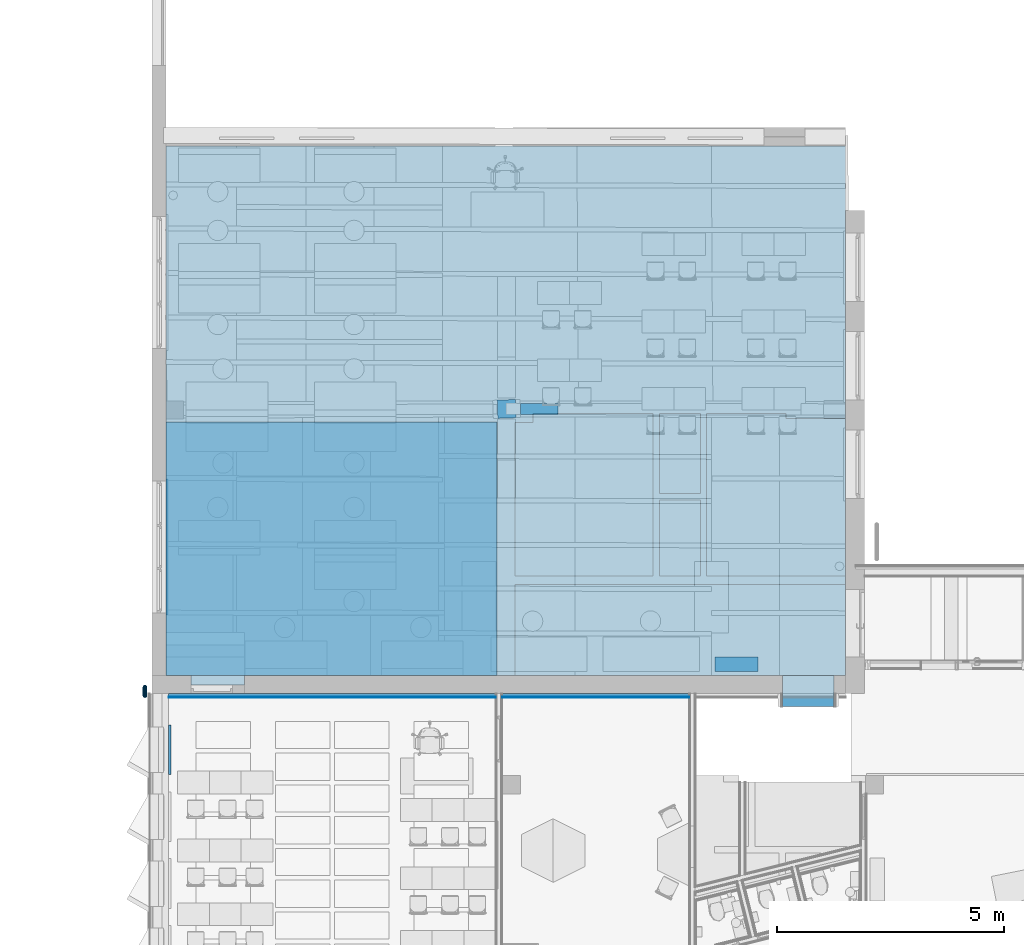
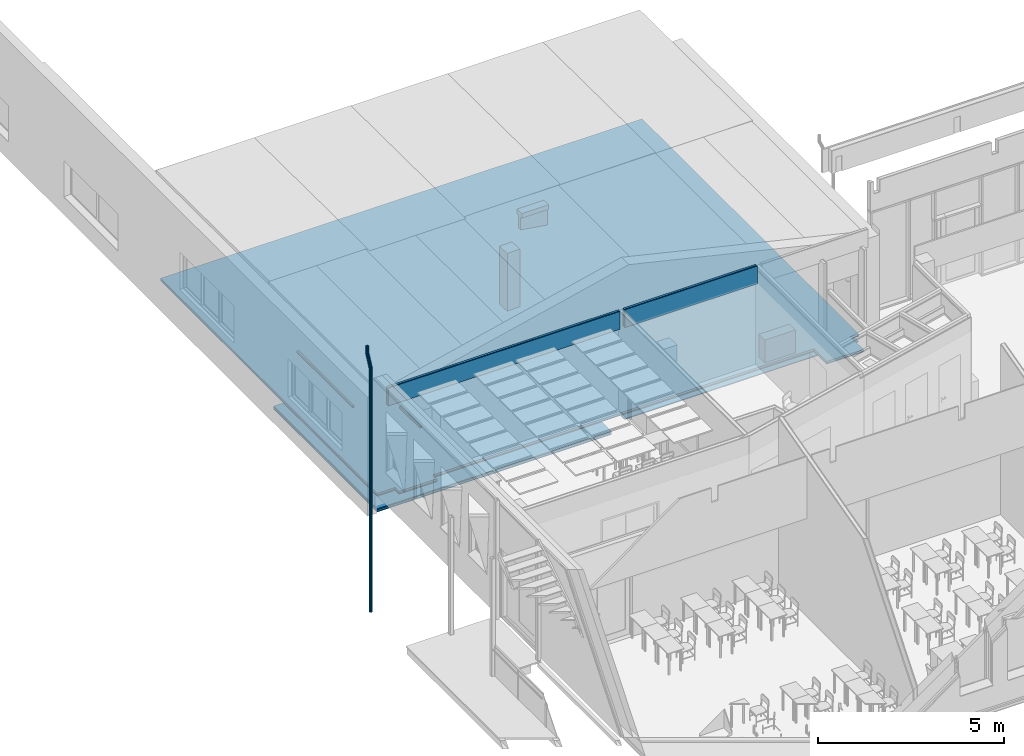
# One storey, part 60 of 153: 15 building element parts, 4 discrete accessories, 7 elements without a shape of their own.
"""IFC2X3 building model written with IfcOpenShell, lengths in millimetres."""

from ifc_helpers import new_model, entity, si_unit, converted_unit, derived_unit, money_unit, direction, frame, origin_with_axes, place, context, subcontext, project, spatial, open_shell, faceted_brep, surface_model, material, type_object, element, aggregate, save


model = new_model("IFC2X3")

# Units and contexts
model_context = context("Model", 3, precision=0.01, world=origin_with_axes(), true_north=direction((0.0, 1.0)))
body_context = subcontext(model_context, "Body", "Model", "MODEL_VIEW")
ifc_project = project(units=[si_unit("LENGTHUNIT", "METRE", prefix="MILLI"), si_unit("AREAUNIT", "SQUARE_METRE"), si_unit("VOLUMEUNIT", "CUBIC_METRE"), converted_unit("PLANEANGLEUNIT", "DEGREE", entity("IfcPlaneAngleMeasure", 0.0174532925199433), si_unit("PLANEANGLEUNIT", "RADIAN"), dimensions=[0, 0, 0, 0, 0, 0, 0]), money_unit("EUR"), converted_unit("TIMEUNIT", "Year", entity("IfcTimeMeasure", 31557600.0), si_unit("TIMEUNIT", "SECOND"), dimensions=[0, 0, 1, 0, 0, 0, 0]), si_unit("MASSUNIT", "GRAM", prefix="KILO"), si_unit("THERMODYNAMICTEMPERATUREUNIT", "DEGREE_CELSIUS"), si_unit("LUMINOUSINTENSITYUNIT", "LUMEN"), si_unit("ENERGYUNIT", "JOULE", prefix="MEGA"), derived_unit("THERMALCONDUCTANCEUNIT", [(si_unit("POWERUNIT", "WATT"), 1), (si_unit("LENGTHUNIT", "METRE"), -1), (si_unit("THERMODYNAMICTEMPERATUREUNIT", "KELVIN"), -1)]), derived_unit("SPECIFICHEATCAPACITYUNIT", [(si_unit("ENERGYUNIT", "JOULE"), 1), (si_unit("MASSUNIT", "GRAM", prefix="KILO"), -1), (si_unit("THERMODYNAMICTEMPERATUREUNIT", "KELVIN"), -1)]), derived_unit("MASSDENSITYUNIT", [(si_unit("MASSUNIT", "GRAM", prefix="KILO"), 1), (si_unit("VOLUMEUNIT", "CUBIC_METRE"), -1)])], contexts=[model_context])

# Site, building, storey
site_placement = place(None, frame((0.0, 0.0, 8650.0), z_axis=(0.0, 0.0, 1.0), x_axis=(1.0, 0.0, 0.0)))
site = spatial("IfcSite", under=ifc_project, at=site_placement, Name="43301:001:0844", CompositionType="ELEMENT")
building_placement = place(site_placement, origin_with_axes())
building = spatial("IfcBuilding", under=site, at=building_placement, Name="Kuressaare Ametikooli tuulikute mehaanikute õppekorpus", CompositionType="ELEMENT")
storey_placement = place(building_placement, frame((0.0, 0.0, 4100.0), z_axis=(0.0, 0.0, 1.0), x_axis=(1.0, 0.0, 0.0)))
storey = spatial("IfcBuildingStorey", under=building, at=storey_placement, Name="2.korrus", CompositionType="ELEMENT", Elevation=4100.0)

# Discrete accessories
ifc_material_1 = material(Name="GENEERILINE - KONSTRUKTRIOON")
discrete_accessory_type_1 = type_object("IfcDiscreteAccessoryType", Name="GENEERILINE - KONSTRUKTRIOON 50")
discrete_accessory_1_placement = place(storey_placement, frame((88318.22664518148, 25094.0689239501, 3000.0), z_axis=(0.0, 0.0, 1.0), x_axis=(1.0, 0.0, 0.0)))
element("IfcDiscreteAccessory", 1, at=discrete_accessory_1_placement, inside=storey, type_object=discrete_accessory_type_1, material=ifc_material_1, Name="RK", context=body_context, shape_type="Brep", body=[
    faceted_brep([(0.0, 0.0, 49.99999999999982), (0.0, 0.0, 0.0), (0.0, -1099.999999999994, 0.0), (0.0, -1099.999999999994, 49.99999999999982), (49.99999999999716, 0.0, 49.99999999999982), (49.99999999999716, 0.0, 0.0), (49.99999999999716, -1099.999999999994, 0.0), (49.99999999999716, -1099.999999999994, 49.99999999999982)], [[[0, 1, 2, 3]], [[4, 5, 1, 0]], [[2, 1, 5, 6]], [[3, 2, 6, 7]], [[4, 0, 3, 7]], [[7, 6, 5, 4]]]),
])
discrete_accessory_2_placement = place(storey_placement, frame((88258.75644683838, 30509.61136402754, 1560.0), z_axis=(0.0, 0.0, 1.0), x_axis=(1.0, 0.0, 0.0)))
element("IfcDiscreteAccessory", 2, at=discrete_accessory_2_placement, inside=storey, type_object=discrete_accessory_type_1, material=ifc_material_1, Name="RK1", context=body_context, shape_type="Brep", body=[
    faceted_brep([(0.0, 0.0, 49.99999999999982), (0.0, 0.0, 0.0), (0.0, -3000.0, 0.0), (0.0, -3000.0, 49.99999999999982), (49.99999999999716, 0.0, 49.99999999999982), (49.99999999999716, 0.0, 0.0), (49.99999999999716, -3000.0, 0.0), (49.99999999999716, -3000.0, 49.99999999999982)], [[[0, 1, 2, 3]], [[4, 5, 1, 0]], [[2, 1, 5, 6]], [[3, 2, 6, 7]], [[4, 0, 3, 7]], [[7, 6, 5, 4]]]),
])
discrete_accessory_type_2 = type_object("IfcDiscreteAccessoryType", Name="GENEERILINE - KONSTRUKTRIOON 750")
discrete_accessory_3_placement = place(storey_placement, frame((100354.1740527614, 26588.921238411, -450.0000000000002), z_axis=(0.0, 0.0, 1.0), x_axis=(1.0, 0.0, 0.0)))
element("IfcDiscreteAccessory", 3, at=discrete_accessory_3_placement, inside=storey, type_object=discrete_accessory_type_2, material=ifc_material_1, Name="PR2", context=body_context, shape_type="Brep", body=[
    faceted_brep([(0.0, 0.0, 750.0), (0.0, 0.0, 0.0), (0.0, -319.9999999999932, 0.0), (0.0, -319.9999999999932, 750.0), (949.9999999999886, 0.0, 750.0), (949.9999999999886, 0.0, 0.0), (949.9999999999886, -319.9999999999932, 0.0), (949.9999999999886, -319.9999999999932, 750.0)], [[[0, 1, 2, 3]], [[4, 5, 1, 0]], [[2, 1, 5, 6]], [[3, 2, 6, 7]], [[4, 0, 3, 7]], [[7, 6, 5, 4]]]),
])
discrete_accessory_type_3 = type_object("IfcDiscreteAccessoryType", Name="Downspout Complex 27")
discrete_accessory_4_placement = place(storey_placement, frame((87798.2557944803, 25737.58545284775, -3897.119848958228), z_axis=(0.0, 0.0, 1.0), x_axis=(-1.0, 0.0, 0.0)))
element("IfcDiscreteAccessory", 4, at=discrete_accessory_4_placement, inside=storey, type_object=discrete_accessory_type_3, Name="SV püstik", context=body_context, shape_type="SurfaceModel", body=[
    surface_model("IfcShellBasedSurfaceModel", [(-50.0, 0.0, 7805.454105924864), (-50.0, 0.0, 0.0), (-46.19397662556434, -19.13417161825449, 0.0), (-46.19397662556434, -19.13417161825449, 7805.454105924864), (-46.19397662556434, 19.13417161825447, 7805.454105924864), (-46.19397662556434, 19.13417161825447, 0.0), (-35.35533905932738, -35.35533905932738, 0.0), (-35.35533905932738, -35.35533905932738, 7805.454105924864), (-35.35533905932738, 35.35533905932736, 7805.454105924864), (-35.35533905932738, 35.35533905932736, 0.0), (-19.13417161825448, -46.19397662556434, 0.0), (-19.13417161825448, -46.19397662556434, 7805.454105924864), (-19.13417161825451, 46.19397662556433, 7805.454105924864), (-19.13417161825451, 46.19397662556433, 0.0), (0.0, -50.0, 0.0), (0.0, -50.0, 7805.454105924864), (0.0, 50.0, 7805.454105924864), (0.0, 50.0, 0.0), (19.13417161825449, -46.19397662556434, 0.0), (19.13417161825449, -46.19397662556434, 7805.454105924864), (19.13417161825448, 46.19397662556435, 7805.454105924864), (19.13417161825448, 46.19397662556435, 0.0), (35.35533905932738, -35.35533905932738, 0.0), (35.35533905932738, -35.35533905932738, 7805.454105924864), (35.35533905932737, 35.35533905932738, 7805.454105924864), (35.35533905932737, 35.35533905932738, 0.0), (46.19397662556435, -19.13417161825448, 0.0), (46.19397662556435, -19.13417161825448, 7805.454105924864), (46.19397662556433, 19.1341716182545, 7805.454105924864), (46.19397662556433, 19.1341716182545, 0.0), (50.0, 0.0, 0.0), (50.0, 0.0, 7805.454105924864)], [open_shell([[[0, 1, 2, 3]], [[4, 5, 1, 0]], [[3, 2, 6, 7]], [[8, 9, 5, 4]], [[7, 6, 10, 11]], [[12, 13, 9, 8]], [[11, 10, 14, 15]], [[16, 17, 13, 12]], [[15, 14, 18, 19]], [[20, 21, 17, 16]], [[19, 18, 22, 23]], [[24, 25, 21, 20]], [[23, 22, 26, 27]], [[28, 29, 25, 24]], [[27, 26, 30, 31]], [[31, 30, 29, 28]]])]),
    surface_model("IfcShellBasedSurfaceModel", [(50.0, -184.5902788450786, 8605.454105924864), (50.0, -184.5902788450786, 8386.306594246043), (46.19397662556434, -165.4561072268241, 8390.699165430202), (46.19397662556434, -165.4561072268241, 8605.454105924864), (46.19397662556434, -203.7244504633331, 8605.454105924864), (46.19397662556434, -203.7244504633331, 8381.914023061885), (49.99999999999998, 0.0, 8005.454105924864), (46.19397662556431, 19.13417161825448, 8009.846677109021), (35.35533905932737, -149.2349397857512, 8394.42300747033), (35.35533905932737, -149.2349397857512, 8605.454105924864), (35.35533905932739, -219.945617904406, 8605.454105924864), (35.35533905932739, -219.945617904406, 8378.190181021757), (46.19397662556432, -19.13417161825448, 8001.061534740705), (49.99999999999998, 0.0, 7805.454105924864), (46.19397662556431, 19.13417161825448, 7805.454105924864), (35.35533905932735, 35.35533905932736, 8013.570519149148), (19.13417161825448, -138.3963022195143, 8396.911199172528), (19.13417161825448, -138.3963022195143, 8605.454105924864), (19.13417161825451, -230.784255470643, 8605.454105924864), (19.13417161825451, -230.784255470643, 8375.70198931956), (35.35533905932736, -35.35533905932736, 7997.337692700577), (46.19397662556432, -19.13417161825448, 7805.454105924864), (35.35533905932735, 35.35533905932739, 7805.454105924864), (19.13417161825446, 46.19397662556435, 8016.058710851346), (0.0, -134.5902788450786, 8397.784935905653), (0.0, -134.5902788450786, 8605.454105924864), (0.0, -234.5902788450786, 8605.454105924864), (0.0, -234.5902788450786, 8374.828252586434), (19.13417161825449, -46.19397662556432, 7994.849500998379), (35.35533905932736, -35.35533905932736, 7805.454105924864), (19.13417161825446, 46.19397662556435, 7805.454105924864), (0.0, 49.99999999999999, 8016.932447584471), (-19.1341716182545, -138.3963022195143, 8396.911199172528), (-19.1341716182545, -138.3963022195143, 8605.454105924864), (-19.13417161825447, -230.784255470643, 8605.454105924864), (-19.13417161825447, -230.784255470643, 8375.70198931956), (0.0, -49.99999999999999, 7993.975764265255), (19.13417161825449, -46.19397662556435, 7805.454105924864), (0.0, 49.99999999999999, 7805.454105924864), (-19.13417161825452, 46.19397662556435, 8016.058710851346), (-35.35533905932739, -149.2349397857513, 8394.42300747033), (-35.35533905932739, -149.2349397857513, 8605.454105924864), (-35.35533905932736, -219.945617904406, 8605.454105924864), (-35.35533905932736, -219.945617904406, 8378.190181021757), (-19.13417161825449, -46.19397662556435, 7994.849500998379), (0.0, -49.99999999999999, 7805.454105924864), (-19.13417161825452, 46.19397662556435, 7805.454105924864), (-35.35533905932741, 35.35533905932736, 8013.570519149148), (-46.19397662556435, -165.4561072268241, 8390.699165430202), (-46.19397662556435, -165.4561072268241, 8605.454105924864), (-46.19397662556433, -203.7244504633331, 8605.454105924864), (-46.19397662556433, -203.7244504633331, 8381.914023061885), (-35.35533905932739, -35.35533905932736, 7997.337692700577), (-19.13417161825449, -46.19397662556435, 7805.454105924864), (-35.35533905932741, 35.35533905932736, 7805.454105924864), (-46.19397662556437, 19.13417161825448, 8009.846677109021), (-50.0, -184.5902788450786, 8386.306594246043), (-50.0, -184.5902788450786, 8605.454105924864), (-46.19397662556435, -19.13417161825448, 8001.061534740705), (-35.35533905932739, -35.35533905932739, 7805.454105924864), (-46.19397662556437, 19.13417161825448, 7805.454105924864), (-50.00000000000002, 0.0, 8005.454105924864), (-46.19397662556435, -19.13417161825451, 7805.454105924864), (-50.00000000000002, 0.0, 7805.454105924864)], [open_shell([[[0, 1, 2, 3]], [[4, 5, 1, 0]], [[1, 6, 7, 2]], [[3, 2, 8, 9]], [[10, 11, 5, 4]], [[5, 12, 6, 1]], [[6, 13, 14, 7]], [[2, 7, 15, 8]], [[9, 8, 16, 17]], [[18, 19, 11, 10]], [[11, 20, 12, 5]], [[12, 21, 13, 6]], [[7, 14, 22, 15]], [[8, 15, 23, 16]], [[17, 16, 24, 25]], [[26, 27, 19, 18]], [[19, 28, 20, 11]], [[20, 29, 21, 12]], [[15, 22, 30, 23]], [[16, 23, 31, 24]], [[25, 24, 32, 33]], [[34, 35, 27, 26]], [[27, 36, 28, 19]], [[28, 37, 29, 20]], [[23, 30, 38, 31]], [[24, 31, 39, 32]], [[33, 32, 40, 41]], [[42, 43, 35, 34]], [[35, 44, 36, 27]], [[36, 45, 37, 28]], [[31, 38, 46, 39]], [[32, 39, 47, 40]], [[41, 40, 48, 49]], [[50, 51, 43, 42]], [[43, 52, 44, 35]], [[44, 53, 45, 36]], [[39, 46, 54, 47]], [[40, 47, 55, 48]], [[49, 48, 56, 57]], [[57, 56, 51, 50]], [[51, 58, 52, 43]], [[52, 59, 53, 44]], [[47, 54, 60, 55]], [[48, 55, 61, 56]], [[56, 61, 58, 51]], [[58, 62, 59, 52]], [[55, 60, 63, 61]], [[61, 63, 62, 58]]])]),
])

# Slab, building element parts
slab_type_1 = type_object("IfcSlabType", Name="VL3.1 109", PredefinedType="NOTDEFINED")
slab_1_placement = place(storey_placement, frame((88258.75644683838, 26183.06892395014, -1065.947478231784), z_axis=(0.0, 0.0, 1.0), x_axis=(1.0, 0.0, 0.0)))
slab_1 = element("IfcSlab", 5, at=slab_1_placement, inside=storey, type_object=slab_type_1, PredefinedType="NOTDEFINED")
ifc_material_2 = material(Name="Soojustus - Mineraalvill jäik")
building_element_part_1_placement = place(slab_1_placement, origin_with_axes())
building_element_part_1 = element("IfcBuildingElementPart", 6, at=building_element_part_1_placement, material=ifc_material_2, Name="Soojustus - Mineraalvill jäik", context=body_context, shape_type="Brep", body=[
    faceted_brep([(7289.144669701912, 0.0, 79.00000000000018), (7289.144669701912, 0.0, 109.0), (0.0, 0.0, 109.0), (0.0, 0.0, 79.00000000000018), (7289.144669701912, 5583.127995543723, 79.00000000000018), (7289.144669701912, 5583.127995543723, 109.0), (0.0, 5575.675713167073, 109.0), (0.0, 5575.675713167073, 79.00000000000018)], [[[0, 1, 2, 3]], [[4, 5, 1, 0]], [[2, 1, 5, 6]], [[3, 2, 6, 7]], [[3, 7, 4, 0]], [[7, 6, 5, 4]]]),
])
ifc_material_3 = material(Name="Kipsplaat")
building_element_part_2_placement = place(slab_1_placement, origin_with_axes())
building_element_part_2 = element("IfcBuildingElementPart", 7, at=building_element_part_2_placement, material=ifc_material_3, Name="Kipsplaat", context=body_context, shape_type="Brep", body=[
    faceted_brep([(7289.144669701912, 0.0, 12.49999999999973), (7289.144669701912, 0.0, 24.99999999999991), (0.0, 0.0, 24.99999999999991), (0.0, 0.0, 12.49999999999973), (7289.144669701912, 5583.127995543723, 12.49999999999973), (7289.144669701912, 5583.127995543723, 24.99999999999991), (0.0, 5575.675713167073, 24.99999999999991), (0.0, 5575.675713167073, 12.49999999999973)], [[[0, 1, 2, 3]], [[4, 5, 1, 0]], [[2, 1, 5, 6]], [[3, 2, 6, 7]], [[3, 7, 4, 0]], [[7, 6, 5, 4]]]),
])
ifc_material_4 = material(Name="Õhkvahe - Raam")
building_element_part_3_placement = place(slab_1_placement, origin_with_axes())
building_element_part_3 = element("IfcBuildingElementPart", 8, at=building_element_part_3_placement, material=ifc_material_4, Name="Õhkvahe - Raam", context=body_context, shape_type="Brep", body=[
    faceted_brep([(7289.144669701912, 0.0, 25.00000000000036), (7289.144669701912, 0.0, 79.00000000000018), (0.0, 0.0, 79.00000000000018), (0.0, 0.0, 25.00000000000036), (7289.144669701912, 5583.127995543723, 25.00000000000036), (7289.144669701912, 5583.127995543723, 79.00000000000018), (0.0, 5575.675713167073, 79.00000000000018), (0.0, 5575.675713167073, 25.00000000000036)], [[[0, 1, 2, 3]], [[4, 5, 1, 0]], [[2, 1, 5, 6]], [[3, 2, 6, 7]], [[3, 7, 4, 0]], [[7, 6, 5, 4]]]),
])
building_element_part_4_placement = place(slab_1_placement, origin_with_axes())
building_element_part_4 = element("IfcBuildingElementPart", 9, at=building_element_part_4_placement, material=ifc_material_3, Name="Kipsplaat", context=body_context, shape_type="Brep", body=[
    faceted_brep([(0.0, 0.0, 0.0), (7289.144669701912, 0.0, 0.0), (7289.144669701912, 0.0, 12.50000000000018), (0.0, 0.0, 12.50000000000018), (0.0, 5575.675713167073, 0.0), (7289.144669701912, 5583.127995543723, 0.0), (7289.144669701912, 5583.127995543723, 12.50000000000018), (0.0, 5575.675713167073, 12.50000000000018)], [[[0, 1, 2, 3]], [[0, 4, 5, 1]], [[1, 5, 6, 2]], [[3, 2, 6, 7]], [[4, 0, 3, 7]], [[5, 4, 7, 6]]]),
])
aggregate(slab_1, [building_element_part_1, building_element_part_2, building_element_part_3, building_element_part_4])

# Wall, building element parts
wall_type = type_object("IfcWallType", Name="SS-2.5* 96", PredefinedType="NOTDEFINED")
wall_1_placement = place(storey_placement, frame((88318.22664518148, 25783.06892395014, 2703.186184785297), z_axis=(0.0, 0.0, 1.0), x_axis=(1.0, 0.0, 0.0)))
wall_1 = element("IfcWall", 10, at=wall_1_placement, inside=storey, type_object=wall_type, Name="Sisesein")
building_element_part_5_placement = place(wall_1_placement, origin_with_axes())
building_element_part_5 = element("IfcBuildingElementPart", 11, at=building_element_part_5_placement, material=ifc_material_3, Name="Kipsplaat", context=body_context, shape_type="Brep", body=[
    faceted_brep([(7202.841711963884, -80.99999999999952, 587.5265545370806), (7202.841711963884, -65.99999999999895, 587.5265545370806), (0.0, -65.99999999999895, 587.5265545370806), (0.0, -80.99999999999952, 587.5265545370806), (7202.841711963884, -80.99999999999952, 0.0), (7202.841711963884, -65.99999999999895, 0.0), (0.0, -65.99999999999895, 0.0), (0.0, -80.99999999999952, 0.0)], [[[0, 1, 2, 3]], [[0, 4, 5, 1]], [[1, 5, 6, 2]], [[3, 2, 6, 7]], [[4, 0, 3, 7]], [[5, 4, 7, 6]]]),
])
building_element_part_6_placement = place(wall_1_placement, origin_with_axes())
building_element_part_6 = element("IfcBuildingElementPart", 12, at=building_element_part_6_placement, material=ifc_material_3, Name="Kipsplaat", context=body_context, shape_type="Brep", body=[
    faceted_brep([(7202.841711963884, -96.00000000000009, 587.5265545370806), (7202.841711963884, -80.99999999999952, 587.5265545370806), (0.0, -80.99999999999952, 587.5265545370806), (0.0, -96.00000000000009, 587.5265545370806), (7202.841711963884, -96.00000000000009, 0.0), (7202.841711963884, -80.99999999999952, 0.0), (0.0, -80.99999999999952, 0.0), (0.0, -96.00000000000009, 0.0)], [[[0, 1, 2, 3]], [[0, 4, 5, 1]], [[1, 5, 6, 2]], [[3, 2, 6, 7]], [[4, 0, 3, 7]], [[5, 4, 7, 6]]]),
])

# Wall, building element part
wall_2_placement = place(storey_placement, frame((95668.06835714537, 25783.06892395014, 2703.186184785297), z_axis=(0.0, 0.0, 1.0), x_axis=(1.0, 0.0, 0.0)))
wall_2 = element("IfcWall", 13, at=wall_2_placement, inside=storey, type_object=wall_type, Name="Sisesein")
ifc_material_5 = material(Name="Soojustus - Mineraalvill pehme")
building_element_part_7_placement = place(wall_2_placement, origin_with_axes())
building_element_part_7 = element("IfcBuildingElementPart", 14, at=building_element_part_7_placement, material=ifc_material_5, Name="Soojustus - Mineraalvill pehme", context=body_context, shape_type="Brep", body=[
    faceted_brep([(4117.549931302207, -65.99999999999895, 587.5265545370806), (4117.549931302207, 0.0, 587.5265545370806), (0.0, 0.0, 587.5265545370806), (0.0, -65.99999999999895, 587.5265545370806), (4117.549931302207, -65.99999999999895, 0.0), (4117.549931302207, 0.0, 0.0), (0.0, 0.0, 0.0), (0.0, -65.99999999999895, 0.0)], [[[0, 1, 2, 3]], [[0, 4, 5, 1]], [[1, 5, 6, 2]], [[3, 2, 6, 7]], [[4, 0, 3, 7]], [[5, 4, 7, 6]]]),
])

# Building element part
building_element_part_8_placement = place(wall_1_placement, origin_with_axes())
building_element_part_8 = element("IfcBuildingElementPart", 15, at=building_element_part_8_placement, material=ifc_material_5, Name="Soojustus - Mineraalvill pehme", context=body_context, shape_type="Brep", body=[
    faceted_brep([(7202.841711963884, -65.99999999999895, 587.5265545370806), (7202.841711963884, 0.0, 587.5265545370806), (0.0, 0.0, 587.5265545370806), (0.0, -65.99999999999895, 587.5265545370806), (7202.841711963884, -65.99999999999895, 0.0), (7202.841711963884, 0.0, 0.0), (0.0, 0.0, 0.0), (0.0, -65.99999999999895, 0.0)], [[[0, 1, 2, 3]], [[0, 4, 5, 1]], [[1, 5, 6, 2]], [[3, 2, 6, 7]], [[4, 0, 3, 7]], [[5, 4, 7, 6]]]),
])

aggregate(wall_1, [building_element_part_5, building_element_part_6, building_element_part_8])

building_element_part_9_placement = place(wall_2_placement, origin_with_axes())
building_element_part_9 = element("IfcBuildingElementPart", 16, at=building_element_part_9_placement, material=ifc_material_3, Name="Kipsplaat", context=body_context, shape_type="Brep", body=[
    faceted_brep([(4117.549931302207, -80.99999999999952, 587.5265545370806), (4117.549931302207, -65.99999999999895, 587.5265545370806), (0.0, -65.99999999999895, 587.5265545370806), (0.0, -80.99999999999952, 587.5265545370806), (4117.549931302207, -80.99999999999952, 0.0), (4117.549931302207, -65.99999999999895, 0.0), (0.0, -65.99999999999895, 0.0), (0.0, -80.99999999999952, 0.0)], [[[0, 1, 2, 3]], [[0, 4, 5, 1]], [[1, 5, 6, 2]], [[3, 2, 6, 7]], [[4, 0, 3, 7]], [[5, 4, 7, 6]]]),
])

building_element_part_10_placement = place(wall_2_placement, origin_with_axes())
building_element_part_10 = element("IfcBuildingElementPart", 17, at=building_element_part_10_placement, material=ifc_material_3, Name="Kipsplaat", context=body_context, shape_type="Brep", body=[
    faceted_brep([(4117.549931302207, -96.00000000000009, 587.5265545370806), (4117.549931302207, -80.99999999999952, 587.5265545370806), (0.0, -80.99999999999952, 587.5265545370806), (0.0, -96.00000000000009, 587.5265545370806), (4117.549931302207, -96.00000000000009, 0.0), (4117.549931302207, -80.99999999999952, 0.0), (0.0, -80.99999999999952, 0.0), (0.0, -96.00000000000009, 0.0)], [[[0, 1, 2, 3]], [[0, 4, 5, 1]], [[1, 5, 6, 2]], [[3, 2, 6, 7]], [[4, 0, 3, 7]], [[5, 4, 7, 6]]]),
])

aggregate(wall_2, [building_element_part_7, building_element_part_9, building_element_part_10])

# Slab, building element part
slab_2_placement = place(storey_placement, frame((95947.90111654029, 26183.07560502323, -798.9999999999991), z_axis=(0.0, 0.0, 1.0), x_axis=(1.0, 0.0, 0.0)))
slab_2 = element("IfcSlab", 18, at=slab_2_placement, inside=storey, type_object=slab_type_1, PredefinedType="NOTDEFINED")
building_element_part_11_placement = place(slab_2_placement, origin_with_axes())
building_element_part_11 = element("IfcBuildingElementPart", 19, at=building_element_part_11_placement, material=ifc_material_2, Name="Soojustus - Mineraalvill jäik", context=body_context, shape_type="Brep", body=[
    faceted_brep([(7273.250241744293, 1999.993318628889, 79.00000000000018), (7273.250241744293, 1999.993318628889, 108.9999999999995), (7273.250241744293, 0.0, 109.0), (7273.250241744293, 0.0, 79.00000000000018), (0.0, 1999.993318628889, 108.9999999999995), (0.0, 1999.993318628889, 79.00000000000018), (0.0, 0.0, 109.0), (0.0, 0.0, 79.00000000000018)], [[[0, 1, 2, 3]], [[4, 1, 0, 5]], [[1, 4, 6, 2]], [[7, 3, 2, 6]], [[5, 0, 3, 7]], [[4, 5, 7, 6]]]),
    faceted_brep([(3039.805547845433, 2189.99331862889, 108.9999999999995), (3039.805547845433, 5770.933887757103, 108.9999999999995), (398.6829239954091, 5770.933912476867, 109.0), (398.6829239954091, 5571.77001042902, 109.0), (0.0, 5571.77001042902, 109.0), (0.0, 2189.99331862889, 108.9999999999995), (3039.805547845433, 5770.933887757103, 79.00000000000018), (3039.805547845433, 2189.99331862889, 79.00000000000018), (398.6829239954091, 5770.933912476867, 79.00000000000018), (398.6829239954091, 5571.77001042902, 79.00000000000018), (0.0, 5571.77001042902, 79.00000000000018), (0.0, 2189.99331862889, 79.00000000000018)], [[[0, 1, 2, 3, 4, 5]], [[6, 1, 0, 7]], [[1, 6, 8, 2]], [[8, 9, 3, 2]], [[9, 10, 4, 3]], [[11, 5, 4, 10]], [[7, 0, 5, 11]], [[6, 7, 11, 10, 9, 8]]]),
    faceted_brep([(4079.80554784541, 3864.896725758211, 78.99999999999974), (4079.80554784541, 3864.896725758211, 108.9999999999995), (4079.80554784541, 2189.99331862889, 108.9999999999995), (4079.80554784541, 2189.99331862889, 78.99999999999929), (3179.805547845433, 3864.896725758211, 108.9999999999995), (3179.805547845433, 3864.896725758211, 78.99999999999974), (3179.805547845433, 2189.99331862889, 108.9999999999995), (3179.805547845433, 2189.99331862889, 78.99999999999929)], [[[0, 1, 2, 3]], [[4, 1, 0, 5]], [[1, 4, 6, 2]], [[3, 2, 6, 7]], [[5, 0, 3, 7]], [[4, 5, 7, 6]]]),
    faceted_brep([(4219.805547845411, 5770.933889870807, 79.00000000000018), (4219.805547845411, 5770.933889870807, 108.9999999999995), (5971.860583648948, 5770.933889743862, 109.0), (5971.860583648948, 5770.933889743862, 79.00000000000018), (4219.805547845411, 2189.99331862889, 108.9999999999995), (4219.805547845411, 2189.99331862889, 78.99999999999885), (7273.250241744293, 2189.99331862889, 108.9999999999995), (7273.250241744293, 5660.933909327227, 109.0), (5971.860585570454, 5660.933886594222, 109.0), (5971.860585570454, 5660.933886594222, 79.00000000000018), (7273.250241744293, 5660.933909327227, 79.00000000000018), (7273.250241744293, 2189.99331862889, 79.00000000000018)], [[[0, 1, 2, 3]], [[4, 1, 0, 5]], [[1, 4, 6, 7, 8, 2]], [[9, 3, 2, 8]], [[5, 0, 3, 9, 10, 11]], [[4, 5, 11, 6]], [[6, 11, 10, 7]], [[10, 9, 8, 7]]]),
    faceted_brep([(3179.805547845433, 4004.896725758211, 108.9999999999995), (4079.80554784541, 4004.896725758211, 108.9999999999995), (4079.80554784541, 5770.933889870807, 108.9999999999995), (3179.805547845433, 5770.933887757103, 108.9999999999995), (4079.80554784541, 4004.896725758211, 78.99999999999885), (3179.805547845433, 4004.896725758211, 78.99999999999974), (4079.80554784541, 5770.933889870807, 79.00000000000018), (3179.805547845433, 5770.933887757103, 79.00000000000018)], [[[0, 1, 2, 3]], [[4, 1, 0, 5]], [[1, 4, 6, 2]], [[2, 6, 7, 3]], [[5, 0, 3, 7]], [[4, 5, 7, 6]]]),
])
aggregate(slab_2, [building_element_part_11])

# Slab, building element parts
slab_type_2 = type_object("IfcSlabType", Name="VL3 90", PredefinedType="NOTDEFINED")
slab_3_placement = place(storey_placement, frame((88258.75644683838, 37845.77160879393, -540.0), z_axis=(0.0, 0.0, 1.0), x_axis=(1.0, 0.0, 0.0)))
slab_3 = element("IfcSlab", 20, at=slab_3_placement, inside=storey, type_object=slab_type_2, PredefinedType="NOTDEFINED")
building_element_part_12_placement = place(slab_3_placement, origin_with_axes())
building_element_part_12 = element("IfcBuildingElementPart", 21, at=building_element_part_12_placement, material=ifc_material_3, Name="Kipsplaat", context=body_context, shape_type="Brep", body=[
    faceted_brep([(0.0, -11662.70268484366, 29.9999999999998), (0.0, -11662.70268484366, 89.99999999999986), (0.0, 0.0, 89.99999999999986), (0.0, 0.0, 29.9999999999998), (558.0704879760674, -11662.70268484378, 29.9999999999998), (558.0704879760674, -11662.70268484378, 89.99999999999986), (558.0704879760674, -11872.70268484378, 89.99999999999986), (1733.070487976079, -11872.70268484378, 89.99999999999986), (1733.070487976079, -11662.70268484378, 89.99999999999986), (13574.81477311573, -11662.70268484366, 89.99999999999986), (13574.81477311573, -12351.70196552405, 89.99999999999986), (14714.81477311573, -12351.70196552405, 89.99999999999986), (14714.81477311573, -11662.70268484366, 89.99999999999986), (14968.75576019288, -11662.70268484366, 89.99999999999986), (14968.75576019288, 0.0, 89.99999999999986), (14968.75576019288, 0.0, 29.9999999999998), (14968.75576019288, -11662.70268484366, 29.9999999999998), (14714.81477311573, -11662.70268484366, 29.9999999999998), (14714.81477311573, -12351.70196552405, 29.9999999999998), (13574.81477311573, -12351.70196552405, 29.9999999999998), (13574.81477311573, -11662.70268484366, 29.9999999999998), (1733.070487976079, -11662.70268484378, 29.9999999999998), (1733.070487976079, -11872.70268484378, 29.9999999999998), (558.0704879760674, -11872.70268484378, 29.9999999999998)], [[[0, 1, 2, 3]], [[4, 5, 1, 0]], [[2, 1, 5, 6, 7, 8, 9, 10, 11, 12, 13, 14]], [[3, 2, 14, 15]], [[3, 15, 16, 17, 18, 19, 20, 21, 22, 23, 4, 0]], [[23, 6, 5, 4]], [[22, 7, 6, 23]], [[21, 8, 7, 22]], [[20, 9, 8, 21]], [[19, 10, 9, 20]], [[18, 11, 10, 19]], [[17, 12, 11, 18]], [[16, 13, 12, 17]], [[15, 14, 13, 16]]]),
])
building_element_part_13_placement = place(slab_3_placement, origin_with_axes())
building_element_part_13 = element("IfcBuildingElementPart", 22, at=building_element_part_13_placement, material=ifc_material_2, Name="Soojustus - Mineraalvill jäik", context=body_context, shape_type="Brep", body=[
    faceted_brep([(0.0, 0.0, 0.0), (0.0, -11662.70268484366, 0.0), (0.0, -11662.70268484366, 29.9999999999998), (0.0, 0.0, 29.9999999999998), (14968.75576019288, 0.0, 0.0), (14968.75576019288, -11662.70268484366, 0.0), (14714.81477311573, -11662.70268484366, 0.0), (14714.81477311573, -12351.70196552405, 0.0), (13574.81477311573, -12351.70196552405, 0.0), (13574.81477311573, -11662.70268484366, 0.0), (1733.070487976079, -11662.70268484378, 0.0), (1733.070487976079, -11872.70268484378, 0.0), (558.0704879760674, -11872.70268484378, 0.0), (558.0704879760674, -11662.70268484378, 0.0), (558.0704879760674, -11662.70268484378, 29.9999999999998), (558.0704879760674, -11872.70268484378, 29.9999999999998), (1733.070487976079, -11872.70268484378, 29.9999999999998), (1733.070487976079, -11662.70268484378, 29.9999999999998), (13574.81477311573, -11662.70268484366, 29.9999999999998), (13574.81477311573, -12351.70196552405, 29.9999999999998), (14714.81477311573, -12351.70196552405, 29.9999999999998), (14714.81477311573, -11662.70268484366, 29.9999999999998), (14968.75576019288, -11662.70268484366, 29.9999999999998), (14968.75576019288, 0.0, 29.9999999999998)], [[[0, 1, 2, 3]], [[0, 4, 5, 6, 7, 8, 9, 10, 11, 12, 13, 1]], [[1, 13, 14, 2]], [[3, 2, 14, 15, 16, 17, 18, 19, 20, 21, 22, 23]], [[4, 0, 3, 23]], [[5, 4, 23, 22]], [[6, 5, 22, 21]], [[7, 6, 21, 20]], [[8, 7, 20, 19]], [[9, 8, 19, 18]], [[10, 9, 18, 17]], [[11, 10, 17, 16]], [[12, 11, 16, 15]], [[13, 12, 15, 14]]]),
])
aggregate(slab_3, [building_element_part_12, building_element_part_13])

# Column, building element part
column_type = type_object("IfcColumnType", Name="Various Structures - 3 Segments - 600 x 400 x 2500 (1983+102+415)", PredefinedType="NOTDEFINED")
column_placement = place(storey_placement, frame((95762.878020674, 32051.0340460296, -540.0000000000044), z_axis=(0.0, 0.0, 1.0), x_axis=(0.9993908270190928, 0.03489949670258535, 0.0)))
column = element("IfcColumn", 23, at=column_placement, inside=storey, type_object=column_type)
building_element_part_14_placement = place(column_placement, origin_with_axes())
building_element_part_14 = element("IfcBuildingElementPart", 24, at=building_element_part_14_placement, material=ifc_material_1, Name="GENEERILINE - KONSTRUKTRIOON", context=body_context, shape_type="Brep", body=[
    faceted_brep([(-200.0000000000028, -200.0000000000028, 1982.979557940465), (-200.0000000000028, -200.0000000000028, 0.0), (199.9999999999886, -200.0000000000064, 0.0), (199.9999999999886, -200.0000000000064, 1982.979557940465), (-200.0000000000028, 200.0000000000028, 1982.979557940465), (-200.0000000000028, 200.0000000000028, 0.0), (199.9999999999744, 199.9999999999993, 0.0), (199.9999999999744, 199.9999999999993, 1982.979557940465)], [[[0, 1, 2, 3]], [[4, 5, 1, 0]], [[2, 1, 5, 6]], [[3, 2, 6, 7]], [[4, 0, 3, 7]], [[7, 6, 5, 4]]]),
])
aggregate(column, [building_element_part_14])

# Beam, building element part
beam_type = type_object("IfcBeamType", Name="Various Structures - 5 Segments - 250 x 700 x 7480 (322+828+5345+505+480)", PredefinedType="NOTDEFINED")
beam_placement = place(storey_placement, frame((95747.90111654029, 32051.05889258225, 2530.0), z_axis=(0.0, 0.0, 1.0), x_axis=(-0.001658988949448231, -0.999998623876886, 0.0)))
beam = element("IfcBeam", 25, at=beam_placement, inside=storey, type_object=beam_type)
ifc_material_6 = material(Name="Raudbetoon")
building_element_part_15_placement = place(beam_placement, origin_with_axes())
building_element_part_15 = element("IfcBuildingElementPart", 26, at=building_element_part_15_placement, material=ifc_material_6, Name="Raudbetoon", context=body_context, shape_type="Brep", body=[
    faceted_brep([(64.99999999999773, 1149.792619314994, -699.9999999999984), (64.99999999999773, 1149.792619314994, -164.4010680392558), (64.99999999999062, 321.5671349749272, -164.4011979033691), (64.99999999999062, 321.5671349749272, -569.9999976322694), (125.0044501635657, 1149.792619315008, -150.0000000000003), (-64.99999999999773, 1149.792619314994, -699.9999999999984), (-64.99999999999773, 1149.792619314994, -164.4010680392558), (-125.0044501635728, 1149.792619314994, -150.0000000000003), (-125.0046161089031, 1149.792619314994, -75.00000000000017), (-125.0047820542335, 1149.792619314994, 0.0), (125.0047820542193, 1149.792619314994, 0.0), (125.0046161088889, 1149.792619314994, -75.00000000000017), (125.0045854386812, 942.736248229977, -150.0000000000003), (125.0048559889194, 528.623506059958, -150.0000000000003), (125.004991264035, 321.5671349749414, -150.0000000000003), (-65.00000000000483, 321.5671349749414, -164.4011979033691), (-65.00000000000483, 321.5671349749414, -569.9999976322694), (125.0051369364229, 321.5671349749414, -75.00000000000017), (125.0052826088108, 321.5671349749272, 0.0), (-125.0052826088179, 321.5671349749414, 0.0), (-125.00513693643, 321.5671349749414, -75.00000000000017), (-125.0049912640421, 321.5671349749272, -150.0000000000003), (-125.0048559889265, 528.623506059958, -150.0000000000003), (-125.0045854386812, 942.7362482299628, -150.0000000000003), (-125.0049071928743, 942.7362482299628, 0.0), (-125.00515747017, 528.6235060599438, 0.0), (125.0051574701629, 528.623506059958, 0.0), (125.0049071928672, 942.736248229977, 0.0), (125.0048765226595, 735.6798771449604, -75.00000000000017), (-125.0048765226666, 735.6798771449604, -75.00000000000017)], [[[0, 1, 2, 3]], [[4, 1, 0, 5, 6, 7, 8, 9, 10, 11]], [[1, 4, 12, 13, 14, 2]], [[15, 16, 3, 2, 14, 17, 18, 19, 20, 21]], [[16, 5, 0, 3]], [[6, 5, 16, 15]], [[7, 6, 15, 21, 22, 23]], [[8, 7, 23]], [[9, 8, 24]], [[10, 9, 24, 25, 19, 18, 26, 27]], [[11, 10, 27]], [[4, 11, 12]], [[12, 28, 13]], [[13, 17, 14]], [[17, 26, 18]], [[25, 20, 19]], [[20, 22, 21]], [[29, 23, 22]], [[8, 23, 29, 24]], [[24, 29, 25]], [[28, 27, 26]], [[11, 27, 28, 12]], [[28, 26, 17, 13]], [[29, 22, 20, 25]]]),
])
aggregate(beam, [building_element_part_15])

save(model, "model.ifc")
